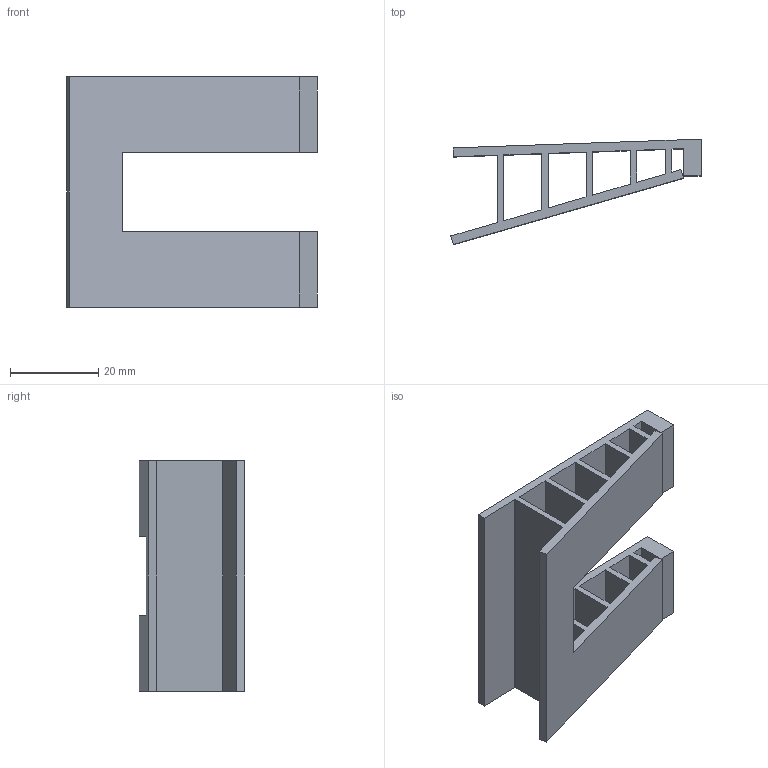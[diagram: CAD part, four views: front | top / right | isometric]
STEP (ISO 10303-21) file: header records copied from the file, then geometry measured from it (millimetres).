
FILE_DESCRIPTION(('Open CASCADE Model'),'2;1');
FILE_NAME('Open CASCADE Shape Model','2026-10-16T00:29:52',('Author'),( 'Open CASCADE'),'Open CASCADE STEP processor 7.9','Open CASCADE 7.9' ,'Unknown');
FILE_SCHEMA(('AUTOMOTIVE_DESIGN { 1 0 10303 214 1 1 1 1 }'));
Length unit declared in the file: millimetre
Products named in the file (1): Open CASCADE STEP translator 7.9 10
Bounding box: 56.55 x 23.8 x 52 mm (x, y, z)
Volume: 12004 mm3; surface area: 13767 mm2
Topology: 1 solids, 1 shells, 692 faces, 2076 edges, 1384 vertices
Faces by surface type: plane 692
Entity records: 47550 total; most frequent: CARTESIAN_POINT 10625, DIRECTION 5294, ORIENTED_EDGE 4152, PCURVE 4152, DEFINITIONAL_REPRESENTATION 4152, LINE 3908, VECTOR 3908, B_SPLINE_CURVE_WITH_KNOTS 2320
